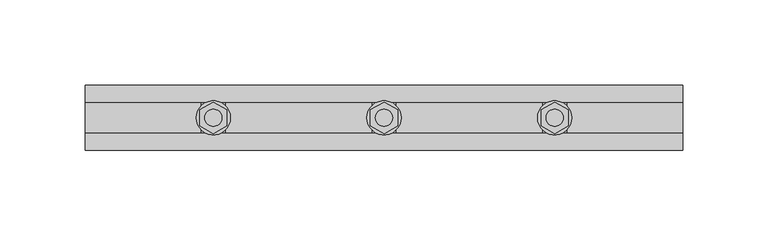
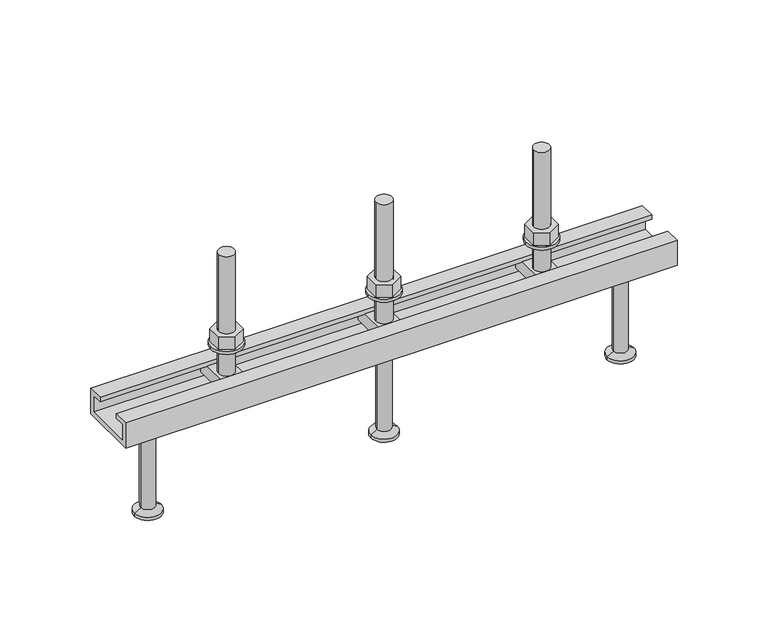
"""IFC4 building model written with IfcOpenShell, lengths in millimetres: fastener geometry, JTA-K JORDAHL® AnchorChannels : JTA-K L=350 mm."""

from ifc_helpers import new_model, si_unit, point, frame, frame_2d, origin, place, context, project, spatial, polyline, circle_curve, trimmed, segment, composite_curve, outline, extrude, source, transform, mapped, element, save
from ifc_brep_helpers import plane_surface, cylinder_surface, revolved_surface, advanced_brep


def fastener_93fc2f02(model_context):
    return source(origin(), model_context, "Body", "SolidModel", [
        extrude(outline(polyline([(175.0, 9.2376043), (183.0, 4.6188022), (183.0, -4.6188022), (175.0, -9.2376043), (167.0, -4.6188022), (167.0, 4.6188022), (175.0, 9.2376043)]), holes=[composite_curve([segment(trimmed(circle_curve(frame_2d((175.0, 0.0)), 5.0), [point((170.0, 0.0))], [point((180.0, 0.0))], True, "CARTESIAN"), True, "CONTINUOUS"), segment(trimmed(circle_curve(frame_2d((175.0, 0.0)), 5.0), [point((180.0, 0.0))], [point((170.0, 0.0))], True, "CARTESIAN"), True, "CONTINUOUS")], self_intersect=False)]), frame((0.0, 0.0, 17.0), z_axis=(0.0, 0.0, 1.0), x_axis=(1.0, 0.0, 0.0)), (0.0, 0.0, 1.0), 8.4),
        extrude(outline(composite_curve([segment(trimmed(circle_curve(frame_2d((175.0, 0.0)), 10.0), [point((165.0, 0.0))], [point((185.0, 0.0))], False, "CARTESIAN"), True, "CONTINUOUS"), segment(trimmed(circle_curve(frame_2d((175.0, 0.0)), 10.0), [point((185.0, 0.0))], [point((165.0, 0.0))], False, "CARTESIAN"), True, "CONTINUOUS")], self_intersect=False), holes=[composite_curve([segment(trimmed(circle_curve(frame_2d((175.0, 0.0)), 5.25), [point((169.75, 0.0))], [point((180.25, 0.0))], True, "CARTESIAN"), True, "CONTINUOUS"), segment(trimmed(circle_curve(frame_2d((175.0, 0.0)), 5.25), [point((180.25, 0.0))], [point((169.75, 0.0))], True, "CARTESIAN"), True, "CONTINUOUS")], self_intersect=False)]), frame((0.0, 0.0, 15.0), z_axis=(0.0, 0.0, 1.0), x_axis=(1.0, 0.0, 0.0)), (0.0, 0.0, 1.0), 2.0),
        advanced_brep(
        [(182.0, 16.0, -3.0), (182.0, -16.0, -3.0), (182.0, -16.0, -11.0), (182.0, 16.0, -11.0), (168.0, 16.0, -3.0), (168.0, 16.0, -11.0), (168.0, -16.0, -11.0), (168.0, -16.0, -3.0), (180.0, 0.0, -3.0), (170.0, 0.0, -3.0), (170.0, 0.0, 77.0), (180.0, 0.0, 77.0)],
        [
            (0, 1),
            (1, 2),
            (2, 3),
            (3, 0),
            (4, 5),
            (5, 6),
            (6, 7),
            (7, 4),
            (0, 4),
            (7, 1),
            (8, 9, circle_curve(frame((175.0, 0.0, -3.0), z_axis=(0.0, 0.0, -1.0), x_axis=(1.0, 0.0, 0.0)), 5.0)),
            (9, 8, circle_curve(frame((175.0, 0.0, -3.0), z_axis=(0.0, 0.0, -1.0), x_axis=(1.0, 0.0, 0.0)), 5.0)),
            (6, 2),
            (5, 3),
            (10, 11, circle_curve(frame((175.0, 0.0, 77.0), z_axis=(0.0, 0.0, 1.0), x_axis=(1.0, 0.0, 0.0)), 5.0)),
            (11, 10, circle_curve(frame((175.0, 0.0, 77.0), z_axis=(0.0, 0.0, 1.0), x_axis=(1.0, 0.0, 0.0)), 5.0)),
            (10, 9),
            (8, 11),
        ],
        [
            plane_surface(frame((182.0, -16.0, -3.0), z_axis=(1.0, 0.0, 0.0), x_axis=(0.0, -1.0, 0.0))),
            plane_surface(frame((168.0, -16.0, -3.0), z_axis=(-1.0, 0.0, 0.0), x_axis=(0.0, 1.0, 0.0))),
            plane_surface(frame((182.0, 16.0, -3.0), z_axis=(0.0, 0.0, 1.0), x_axis=(-1.0, 0.0, 0.0))),
            plane_surface(frame((182.0, -16.0, -3.0), z_axis=(0.0, -1.0, 0.0), x_axis=(-1.0, 0.0, 0.0))),
            plane_surface(frame((182.0, -16.0, -11.0), z_axis=(0.0, 0.0, -1.0), x_axis=(-1.0, 0.0, 0.0))),
            plane_surface(frame((182.0, 16.0, -11.0), z_axis=(0.0, 1.0, 0.0), x_axis=(-1.0, 0.0, 0.0))),
            plane_surface(frame((180.0, 0.0, 77.0), z_axis=(0.0, 0.0, 1.0), x_axis=(0.0, 1.0, 0.0))),
            cylinder_surface(frame((175.0, 0.0, -3.0), z_axis=(0.0, 0.0, 1.0), x_axis=(1.0, 0.0, 0.0)), 5.0),
        ],
        [
            (0, [[1, 2, 3, 4]]),
            (1, [[5, 6, 7, 8]]),
            (2, [[-1, 9, -8, 10], [11, 12]]),
            (3, [[-2, -10, -7, 13]]),
            (4, [[-3, -13, -6, 14]]),
            (5, [[-4, -14, -5, -9]]),
            (6, [[15, 16]]),
            (7, [[-15, 17, -11, 18]]),
            (7, [[-16, -18, -12, -17]]),
        ],
    ),
        advanced_brep(
        [(175.0, 0.0, -17.0), (188.5, 0.0, -17.0), (161.5, 0.0, -17.0), (166.5, 0.0, -80.0), (183.5, 0.0, -80.0), (175.0, 0.0, -80.0), (166.5, 0.0, -78.0), (183.5, 0.0, -78.0), (170.5, 0.0, -75.6905989), (179.5, 0.0, -75.6905989), (170.5, 0.0, -19.5), (179.5, 0.0, -19.5)],
        [
            (0, 1),
            (1, 2, circle_curve(frame((175.0, 0.0, -17.0), z_axis=(0.0, 0.0, 1.0), x_axis=(1.0, 0.0, 0.0)), 13.5)),
            (2, 0),
            (2, 1, circle_curve(frame((175.0, 0.0, -17.0), z_axis=(0.0, 0.0, 1.0), x_axis=(1.0, 0.0, 0.0)), 13.5)),
            (3, 4, circle_curve(frame((175.0, 0.0, -80.0), z_axis=(0.0, 0.0, -1.0), x_axis=(1.0, 0.0, 0.0)), 8.5)),
            (4, 5),
            (5, 3),
            (4, 3, circle_curve(frame((175.0, 0.0, -80.0), z_axis=(0.0, 0.0, -1.0), x_axis=(1.0, 0.0, 0.0)), 8.5)),
            (6, 7, circle_curve(frame((175.0, 0.0, -78.0), z_axis=(0.0, 0.0, -1.0), x_axis=(1.0, 0.0, 0.0)), 8.5)),
            (7, 4),
            (3, 6),
            (7, 6, circle_curve(frame((175.0, 0.0, -78.0), z_axis=(0.0, 0.0, -1.0), x_axis=(1.0, 0.0, 0.0)), 8.5)),
            (8, 9, circle_curve(frame((175.0, 0.0, -75.6905989), z_axis=(0.0, 0.0, -1.0), x_axis=(1.0, 0.0, 0.0)), 4.5)),
            (9, 7),
            (6, 8),
            (9, 8, circle_curve(frame((175.0, 0.0, -75.6905989), z_axis=(0.0, 0.0, -1.0), x_axis=(1.0, 0.0, 0.0)), 4.5)),
            (10, 11, circle_curve(frame((175.0, 0.0, -19.5), z_axis=(0.0, 0.0, -1.0), x_axis=(1.0, 0.0, 0.0)), 4.5)),
            (11, 9),
            (8, 10),
            (11, 10, circle_curve(frame((175.0, 0.0, -19.5), z_axis=(0.0, 0.0, -1.0), x_axis=(1.0, 0.0, 0.0)), 4.5)),
            (1, 11),
            (10, 2),
        ],
        [
            plane_surface(frame((175.0, 0.0, -17.0), z_axis=(0.0, 0.0, 1.0), x_axis=(1.0, 0.0, 0.0))),
            plane_surface(frame((175.0, 0.0, -80.0), z_axis=(0.0, 0.0, -1.0), x_axis=(1.0, 0.0, 0.0))),
            cylinder_surface(frame((175.0, 0.0, 2277.3150031), z_axis=(0.0, 0.0, 1.0), x_axis=(1.0, 0.0, 0.0)), 8.5),
            revolved_surface(polyline([(183.5, 0.0, -78.0), (179.5, 0.0, -75.6905989)]), (175.0, 0.0, 2277.3150031), (0.0, 0.0, 1.0)),
            cylinder_surface(frame((175.0, 0.0, 2277.3150031), z_axis=(0.0, 0.0, 1.0), x_axis=(1.0, 0.0, 0.0)), 4.5),
            revolved_surface(polyline([(179.5, 0.0, -19.5), (188.5, 0.0, -17.0)]), (175.0, 0.0, 2277.3150031), (0.0, 0.0, 1.0)),
        ],
        [
            (0, [[1, 2, 3]]),
            (0, [[-3, 4, -1]]),
            (1, [[5, 6, 7]]),
            (1, [[8, -7, -6]]),
            (2, [[9, 10, -5, 11]]),
            (2, [[12, -11, -8, -10]]),
            (3, [[13, 14, -9, 15]]),
            (3, [[16, -15, -12, -14]]),
            (4, [[17, 18, -13, 19]]),
            (4, [[20, -19, -16, -18]]),
            (5, [[-2, 21, -17, 22]]),
            (5, [[-4, -22, -20, -21]]),
        ],
    ),
        extrude(outline(polyline([(275.0, 9.2376043), (283.0, 4.6188022), (283.0, -4.6188022), (275.0, -9.2376043), (267.0, -4.6188022), (267.0, 4.6188022), (275.0, 9.2376043)]), holes=[composite_curve([segment(trimmed(circle_curve(frame_2d((275.0, 0.0)), 5.0), [point((270.0, 0.0))], [point((280.0, 0.0))], True, "CARTESIAN"), True, "CONTINUOUS"), segment(trimmed(circle_curve(frame_2d((275.0, 0.0)), 5.0), [point((280.0, 0.0))], [point((270.0, 0.0))], True, "CARTESIAN"), True, "CONTINUOUS")], self_intersect=False)]), frame((0.0, 0.0, 17.0), z_axis=(0.0, 0.0, 1.0), x_axis=(1.0, 0.0, 0.0)), (0.0, 0.0, 1.0), 8.4),
        extrude(outline(composite_curve([segment(trimmed(circle_curve(frame_2d((275.0, 0.0)), 10.0), [point((265.0, 0.0))], [point((285.0, 0.0))], False, "CARTESIAN"), True, "CONTINUOUS"), segment(trimmed(circle_curve(frame_2d((275.0, 0.0)), 10.0), [point((285.0, 0.0))], [point((265.0, 0.0))], False, "CARTESIAN"), True, "CONTINUOUS")], self_intersect=False), holes=[composite_curve([segment(trimmed(circle_curve(frame_2d((275.0, 0.0)), 5.25), [point((269.75, 0.0))], [point((280.25, 0.0))], True, "CARTESIAN"), True, "CONTINUOUS"), segment(trimmed(circle_curve(frame_2d((275.0, 0.0)), 5.25), [point((280.25, 0.0))], [point((269.75, 0.0))], True, "CARTESIAN"), True, "CONTINUOUS")], self_intersect=False)]), frame((0.0, 0.0, 15.0), z_axis=(0.0, 0.0, 1.0), x_axis=(1.0, 0.0, 0.0)), (0.0, 0.0, 1.0), 2.0),
        extrude(outline(polyline([(75.0, 9.2376043), (83.0, 4.6188022), (83.0, -4.6188022), (75.0, -9.2376043), (67.0, -4.6188022), (67.0, 4.6188022), (75.0, 9.2376043)]), holes=[composite_curve([segment(trimmed(circle_curve(frame_2d((75.0, 0.0)), 5.0), [point((70.0, 0.0))], [point((80.0, 0.0))], True, "CARTESIAN"), True, "CONTINUOUS"), segment(trimmed(circle_curve(frame_2d((75.0, 0.0)), 5.0), [point((80.0, 0.0))], [point((70.0, 0.0))], True, "CARTESIAN"), True, "CONTINUOUS")], self_intersect=False)]), frame((0.0, 0.0, 17.0), z_axis=(0.0, 0.0, 1.0), x_axis=(1.0, 0.0, 0.0)), (0.0, 0.0, 1.0), 8.4),
        extrude(outline(composite_curve([segment(trimmed(circle_curve(frame_2d((75.0, 0.0)), 10.0), [point((65.0, 0.0))], [point((85.0, 0.0))], False, "CARTESIAN"), True, "CONTINUOUS"), segment(trimmed(circle_curve(frame_2d((75.0, 0.0)), 10.0), [point((85.0, 0.0))], [point((65.0, 0.0))], False, "CARTESIAN"), True, "CONTINUOUS")], self_intersect=False), holes=[composite_curve([segment(trimmed(circle_curve(frame_2d((75.0, 0.0)), 5.25), [point((69.75, 0.0))], [point((80.25, 0.0))], True, "CARTESIAN"), True, "CONTINUOUS"), segment(trimmed(circle_curve(frame_2d((75.0, 0.0)), 5.25), [point((80.25, 0.0))], [point((69.75, 0.0))], True, "CARTESIAN"), True, "CONTINUOUS")], self_intersect=False)]), frame((0.0, 0.0, 15.0), z_axis=(0.0, 0.0, 1.0), x_axis=(1.0, 0.0, 0.0)), (0.0, 0.0, 1.0), 2.0),
        advanced_brep(
        [(282.0, 16.0, -3.0), (282.0, -16.0, -3.0), (282.0, -16.0, -11.0), (282.0, 16.0, -11.0), (268.0, 16.0, -3.0), (268.0, 16.0, -11.0), (268.0, -16.0, -11.0), (268.0, -16.0, -3.0), (280.0, 0.0, -3.0), (270.0, 0.0, -3.0), (270.0, 0.0, 77.0), (280.0, 0.0, 77.0)],
        [
            (0, 1),
            (1, 2),
            (2, 3),
            (3, 0),
            (4, 5),
            (5, 6),
            (6, 7),
            (7, 4),
            (0, 4),
            (7, 1),
            (8, 9, circle_curve(frame((275.0, 0.0, -3.0), z_axis=(0.0, 0.0, -1.0), x_axis=(1.0, 0.0, 0.0)), 5.0)),
            (9, 8, circle_curve(frame((275.0, 0.0, -3.0), z_axis=(0.0, 0.0, -1.0), x_axis=(1.0, 0.0, 0.0)), 5.0)),
            (6, 2),
            (5, 3),
            (10, 11, circle_curve(frame((275.0, 0.0, 77.0), z_axis=(0.0, 0.0, 1.0), x_axis=(1.0, 0.0, 0.0)), 5.0)),
            (11, 10, circle_curve(frame((275.0, 0.0, 77.0), z_axis=(0.0, 0.0, 1.0), x_axis=(1.0, 0.0, 0.0)), 5.0)),
            (10, 9),
            (8, 11),
        ],
        [
            plane_surface(frame((282.0, -16.0, -3.0), z_axis=(1.0, 0.0, 0.0), x_axis=(0.0, -1.0, 0.0))),
            plane_surface(frame((268.0, -16.0, -3.0), z_axis=(-1.0, 0.0, 0.0), x_axis=(0.0, 1.0, 0.0))),
            plane_surface(frame((282.0, 16.0, -3.0), z_axis=(0.0, 0.0, 1.0), x_axis=(-1.0, 0.0, 0.0))),
            plane_surface(frame((282.0, -16.0, -3.0), z_axis=(0.0, -1.0, 0.0), x_axis=(-1.0, 0.0, 0.0))),
            plane_surface(frame((282.0, -16.0, -11.0), z_axis=(0.0, 0.0, -1.0), x_axis=(-1.0, 0.0, 0.0))),
            plane_surface(frame((282.0, 16.0, -11.0), z_axis=(0.0, 1.0, 0.0), x_axis=(-1.0, 0.0, 0.0))),
            plane_surface(frame((280.0, 0.0, 77.0), z_axis=(0.0, 0.0, 1.0), x_axis=(0.0, 1.0, 0.0))),
            cylinder_surface(frame((275.0, 0.0, -3.0), z_axis=(0.0, 0.0, 1.0), x_axis=(1.0, 0.0, 0.0)), 5.0),
        ],
        [
            (0, [[1, 2, 3, 4]]),
            (1, [[5, 6, 7, 8]]),
            (2, [[-1, 9, -8, 10], [11, 12]]),
            (3, [[-2, -10, -7, 13]]),
            (4, [[-3, -13, -6, 14]]),
            (5, [[-4, -14, -5, -9]]),
            (6, [[15, 16]]),
            (7, [[-15, 17, -11, 18]]),
            (7, [[-16, -18, -12, -17]]),
        ],
    ),
        advanced_brep(
        [(82.0, 16.0, -3.0), (82.0, -16.0, -3.0), (82.0, -16.0, -11.0), (82.0, 16.0, -11.0), (68.0, 16.0, -3.0), (68.0, 16.0, -11.0), (68.0, -16.0, -11.0), (68.0, -16.0, -3.0), (80.0, 0.0, -3.0), (70.0, 0.0, -3.0), (70.0, 0.0, 77.0), (80.0, 0.0, 77.0)],
        [
            (0, 1),
            (1, 2),
            (2, 3),
            (3, 0),
            (4, 5),
            (5, 6),
            (6, 7),
            (7, 4),
            (0, 4),
            (7, 1),
            (8, 9, circle_curve(frame((75.0, 0.0, -3.0), z_axis=(0.0, 0.0, -1.0), x_axis=(1.0, 0.0, 0.0)), 5.0)),
            (9, 8, circle_curve(frame((75.0, 0.0, -3.0), z_axis=(0.0, 0.0, -1.0), x_axis=(1.0, 0.0, 0.0)), 5.0)),
            (6, 2),
            (5, 3),
            (10, 11, circle_curve(frame((75.0, 0.0, 77.0), z_axis=(0.0, 0.0, 1.0), x_axis=(1.0, 0.0, 0.0)), 5.0)),
            (11, 10, circle_curve(frame((75.0, 0.0, 77.0), z_axis=(0.0, 0.0, 1.0), x_axis=(1.0, 0.0, 0.0)), 5.0)),
            (10, 9),
            (8, 11),
        ],
        [
            plane_surface(frame((82.0, -16.0, -3.0), z_axis=(1.0, 0.0, 0.0), x_axis=(0.0, -1.0, 0.0))),
            plane_surface(frame((68.0, -16.0, -3.0), z_axis=(-1.0, 0.0, 0.0), x_axis=(0.0, 1.0, 0.0))),
            plane_surface(frame((82.0, 16.0, -3.0), z_axis=(0.0, 0.0, 1.0), x_axis=(-1.0, 0.0, 0.0))),
            plane_surface(frame((82.0, -16.0, -3.0), z_axis=(0.0, -1.0, 0.0), x_axis=(-1.0, 0.0, 0.0))),
            plane_surface(frame((82.0, -16.0, -11.0), z_axis=(0.0, 0.0, -1.0), x_axis=(-1.0, 0.0, 0.0))),
            plane_surface(frame((82.0, 16.0, -11.0), z_axis=(0.0, 1.0, 0.0), x_axis=(-1.0, 0.0, 0.0))),
            plane_surface(frame((80.0, 0.0, 77.0), z_axis=(0.0, 0.0, 1.0), x_axis=(0.0, 1.0, 0.0))),
            cylinder_surface(frame((75.0, 0.0, -3.0), z_axis=(0.0, 0.0, 1.0), x_axis=(1.0, 0.0, 0.0)), 5.0),
        ],
        [
            (0, [[1, 2, 3, 4]]),
            (1, [[5, 6, 7, 8]]),
            (2, [[-1, 9, -8, 10], [11, 12]]),
            (3, [[-2, -10, -7, 13]]),
            (4, [[-3, -13, -6, 14]]),
            (5, [[-4, -14, -5, -9]]),
            (6, [[15, 16]]),
            (7, [[-15, 17, -11, 18]]),
            (7, [[-16, -18, -12, -17]]),
        ],
    ),
        advanced_brep(
        [(325.0, 0.0, -17.0), (338.5, 0.0, -17.0), (311.5, 0.0, -17.0), (316.5, 0.0, -80.0), (333.5, 0.0, -80.0), (325.0, 0.0, -80.0), (316.5, 0.0, -78.0), (333.5, 0.0, -78.0), (320.5, 0.0, -75.6905989), (329.5, 0.0, -75.6905989), (320.5, 0.0, -19.5), (329.5, 0.0, -19.5)],
        [
            (0, 1),
            (1, 2, circle_curve(frame((325.0, 0.0, -17.0), z_axis=(0.0, 0.0, 1.0), x_axis=(1.0, 0.0, 0.0)), 13.5)),
            (2, 0),
            (2, 1, circle_curve(frame((325.0, 0.0, -17.0), z_axis=(0.0, 0.0, 1.0), x_axis=(1.0, 0.0, 0.0)), 13.5)),
            (3, 4, circle_curve(frame((325.0, 0.0, -80.0), z_axis=(0.0, 0.0, -1.0), x_axis=(1.0, 0.0, 0.0)), 8.5)),
            (4, 5),
            (5, 3),
            (4, 3, circle_curve(frame((325.0, 0.0, -80.0), z_axis=(0.0, 0.0, -1.0), x_axis=(1.0, 0.0, 0.0)), 8.5)),
            (6, 7, circle_curve(frame((325.0, 0.0, -78.0), z_axis=(0.0, 0.0, -1.0), x_axis=(1.0, 0.0, 0.0)), 8.5)),
            (7, 4),
            (3, 6),
            (7, 6, circle_curve(frame((325.0, 0.0, -78.0), z_axis=(0.0, 0.0, -1.0), x_axis=(1.0, 0.0, 0.0)), 8.5)),
            (8, 9, circle_curve(frame((325.0, 0.0, -75.6905989), z_axis=(0.0, 0.0, -1.0), x_axis=(1.0, 0.0, 0.0)), 4.5)),
            (9, 7),
            (6, 8),
            (9, 8, circle_curve(frame((325.0, 0.0, -75.6905989), z_axis=(0.0, 0.0, -1.0), x_axis=(1.0, 0.0, 0.0)), 4.5)),
            (10, 11, circle_curve(frame((325.0, 0.0, -19.5), z_axis=(0.0, 0.0, -1.0), x_axis=(1.0, 0.0, 0.0)), 4.5)),
            (11, 9),
            (8, 10),
            (11, 10, circle_curve(frame((325.0, 0.0, -19.5), z_axis=(0.0, 0.0, -1.0), x_axis=(1.0, 0.0, 0.0)), 4.5)),
            (1, 11),
            (10, 2),
        ],
        [
            plane_surface(frame((325.0, 0.0, -17.0), z_axis=(0.0, 0.0, 1.0), x_axis=(1.0, 0.0, 0.0))),
            plane_surface(frame((325.0, 0.0, -80.0), z_axis=(0.0, 0.0, -1.0), x_axis=(1.0, 0.0, 0.0))),
            cylinder_surface(frame((325.0, 0.0, 2277.3150031), z_axis=(0.0, 0.0, 1.0), x_axis=(1.0, 0.0, 0.0)), 8.5),
            revolved_surface(polyline([(333.5, 0.0, -78.0), (329.5, 0.0, -75.6905989)]), (325.0, 0.0, 2277.3150031), (0.0, 0.0, 1.0)),
            cylinder_surface(frame((325.0, 0.0, 2277.3150031), z_axis=(0.0, 0.0, 1.0), x_axis=(1.0, 0.0, 0.0)), 4.5),
            revolved_surface(polyline([(329.5, 0.0, -19.5), (338.5, 0.0, -17.0)]), (325.0, 0.0, 2277.3150031), (0.0, 0.0, 1.0)),
        ],
        [
            (0, [[1, 2, 3]]),
            (0, [[-3, 4, -1]]),
            (1, [[5, 6, 7]]),
            (1, [[8, -7, -6]]),
            (2, [[9, 10, -5, 11]]),
            (2, [[12, -11, -8, -10]]),
            (3, [[13, 14, -9, 15]]),
            (3, [[16, -15, -12, -14]]),
            (4, [[17, 18, -13, 19]]),
            (4, [[20, -19, -16, -18]]),
            (5, [[-2, 21, -17, 22]]),
            (5, [[-4, -22, -20, -21]]),
        ],
    ),
        advanced_brep(
        [(25.0, 0.0, -17.0), (38.5, 0.0, -17.0), (11.5, 0.0, -17.0), (16.5, 0.0, -80.0), (33.5, 0.0, -80.0), (25.0, 0.0, -80.0), (16.5, 0.0, -78.0), (33.5, 0.0, -78.0), (20.5, 0.0, -75.6905989), (29.5, 0.0, -75.6905989), (20.5, 0.0, -19.5), (29.5, 0.0, -19.5)],
        [
            (0, 1),
            (1, 2, circle_curve(frame((25.0, 0.0, -17.0), z_axis=(0.0, 0.0, 1.0), x_axis=(1.0, 0.0, 0.0)), 13.5)),
            (2, 0),
            (2, 1, circle_curve(frame((25.0, 0.0, -17.0), z_axis=(0.0, 0.0, 1.0), x_axis=(1.0, 0.0, 0.0)), 13.5)),
            (3, 4, circle_curve(frame((25.0, 0.0, -80.0), z_axis=(0.0, 0.0, -1.0), x_axis=(1.0, 0.0, 0.0)), 8.5)),
            (4, 5),
            (5, 3),
            (4, 3, circle_curve(frame((25.0, 0.0, -80.0), z_axis=(0.0, 0.0, -1.0), x_axis=(1.0, 0.0, 0.0)), 8.5)),
            (6, 7, circle_curve(frame((25.0, 0.0, -78.0), z_axis=(0.0, 0.0, -1.0), x_axis=(1.0, 0.0, 0.0)), 8.5)),
            (7, 4),
            (3, 6),
            (7, 6, circle_curve(frame((25.0, 0.0, -78.0), z_axis=(0.0, 0.0, -1.0), x_axis=(1.0, 0.0, 0.0)), 8.5)),
            (8, 9, circle_curve(frame((25.0, 0.0, -75.6905989), z_axis=(0.0, 0.0, -1.0), x_axis=(1.0, 0.0, 0.0)), 4.5)),
            (9, 7),
            (6, 8),
            (9, 8, circle_curve(frame((25.0, 0.0, -75.6905989), z_axis=(0.0, 0.0, -1.0), x_axis=(1.0, 0.0, 0.0)), 4.5)),
            (10, 11, circle_curve(frame((25.0, 0.0, -19.5), z_axis=(0.0, 0.0, -1.0), x_axis=(1.0, 0.0, 0.0)), 4.5)),
            (11, 9),
            (8, 10),
            (11, 10, circle_curve(frame((25.0, 0.0, -19.5), z_axis=(0.0, 0.0, -1.0), x_axis=(1.0, 0.0, 0.0)), 4.5)),
            (1, 11),
            (10, 2),
        ],
        [
            plane_surface(frame((25.0, 0.0, -17.0), z_axis=(0.0, 0.0, 1.0), x_axis=(1.0, 0.0, 0.0))),
            plane_surface(frame((25.0, 0.0, -80.0), z_axis=(0.0, 0.0, -1.0), x_axis=(1.0, 0.0, 0.0))),
            cylinder_surface(frame((25.0, 0.0, 2277.3150031), z_axis=(0.0, 0.0, 1.0), x_axis=(1.0, 0.0, 0.0)), 8.5),
            revolved_surface(polyline([(33.5, 0.0, -78.0), (29.5, 0.0, -75.6905989)]), (25.0, 0.0, 2277.3150031), (0.0, 0.0, 1.0)),
            cylinder_surface(frame((25.0, 0.0, 2277.3150031), z_axis=(0.0, 0.0, 1.0), x_axis=(1.0, 0.0, 0.0)), 4.5),
            revolved_surface(polyline([(29.5, 0.0, -19.5), (38.5, 0.0, -17.0)]), (25.0, 0.0, 2277.3150031), (0.0, 0.0, 1.0)),
        ],
        [
            (0, [[1, 2, 3]]),
            (0, [[-3, 4, -1]]),
            (1, [[5, 6, 7]]),
            (1, [[8, -7, -6]]),
            (2, [[9, 10, -5, 11]]),
            (2, [[12, -11, -8, -10]]),
            (3, [[13, 14, -9, 15]]),
            (3, [[16, -15, -12, -14]]),
            (4, [[17, 18, -13, 19]]),
            (4, [[20, -19, -16, -18]]),
            (5, [[-2, 21, -17, 22]]),
            (5, [[-4, -22, -20, -21]]),
        ],
    ),
        extrude(outline(polyline([(19.0, 0.0), (19.0, -17.0), (-19.0, -17.0), (-19.0, 0.0), (-9.0, 0.0), (-9.0, -3.0), (-16.0, -3.0), (-16.0, -14.0), (16.0, -14.0), (16.0, -3.0), (9.0, -3.0), (9.0, 0.0), (19.0, 0.0)])), frame((0.0, 0.0, 0.0), z_axis=(1.0, 0.0, 0.0), x_axis=(0.0, 1.0, 0.0)), (0.0, 0.0, 1.0), 350.0),
    ])


if __name__ == "__main__":
    model = new_model("IFC4")
    model_context = context("Model", 3, world=origin())
    ifc_project = project(units=[si_unit("LENGTHUNIT", "METRE", prefix="MILLI")], contexts=[model_context])
    site = spatial("IfcSite", under=ifc_project)
    building = spatial("IfcBuilding", under=site)
    placement = place(None, origin())
    fastener_shape = fastener_93fc2f02(model_context)
    element("IfcFastener", 1, ObjectType="JTA-K JORDAHL® AnchorChannels : JTA-K L=350 mm", at=placement, inside=building, context=model_context, shape_type="MappedRepresentation", body=[
        mapped(fastener_shape, transform((0.0, 0.0, 0.0), x_axis=(1.0, 0.0, 0.0), y_axis=(0.0, 1.0, 0.0), z_axis=(0.0, 0.0, 1.0))),
    ])
    save(model, "model.ifc")
